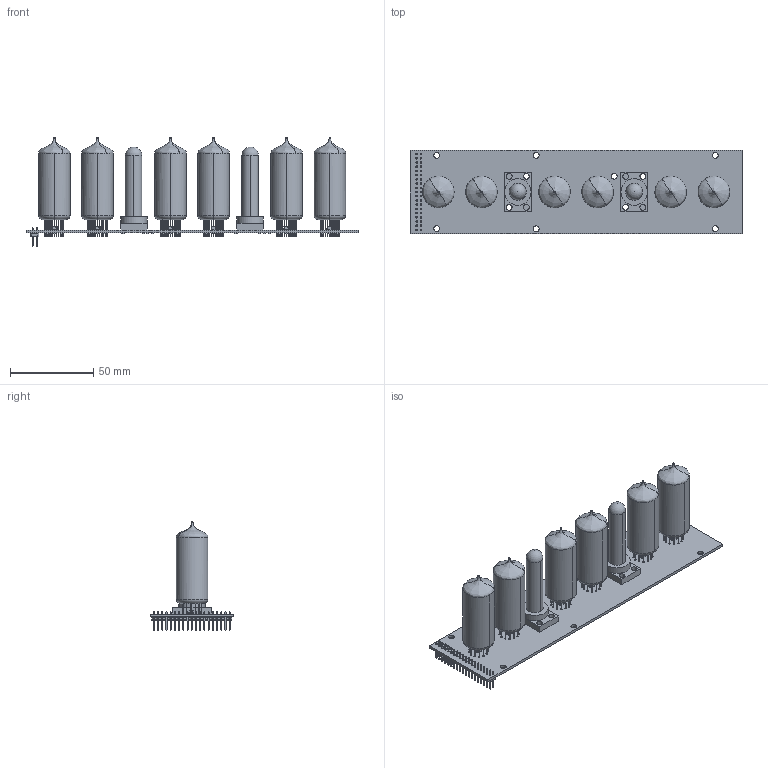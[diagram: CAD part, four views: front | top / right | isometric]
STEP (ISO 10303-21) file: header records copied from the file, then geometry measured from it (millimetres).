
FILE_DESCRIPTION(('Open CASCADE Model'),'2;1');
FILE_NAME('Open CASCADE Shape Model','2017-11-16T23:08:01',('Author'),( 'Open CASCADE'),'Open CASCADE STEP processor 6.8','Open CASCADE 6.8' ,'Unknown');
FILE_SCHEMA(('AUTOMOTIVE_DESIGN { 1 0 10303 214 1 1 1 1 }'));
Length unit declared in the file: millimetre
Products named in the file (1): PCB
Bounding box: 200 x 50 x 65.81 mm (x, y, z)
Volume: 22446.1 mm3; surface area: 51076.7 mm2
Topology: 5 solids, 1833 shells, 3377 faces, 12409 edges, 10506 vertices
Faces by surface type: plane 1902, cylinder 1163, sphere 276, bspline 24, torus 12
Full cylindrical faces by diameter (mm): 0.9 x124, 2 x4, 3.5 x11
Entity records: 147111 total; most frequent: CARTESIAN_POINT 29371, DIRECTION 21703, ORIENTED_EDGE 15218, EDGE_CURVE 12133, VERTEX_POINT 10506, LINE 9119, VECTOR 9119, AXIS2_PLACEMENT_3D 6292
